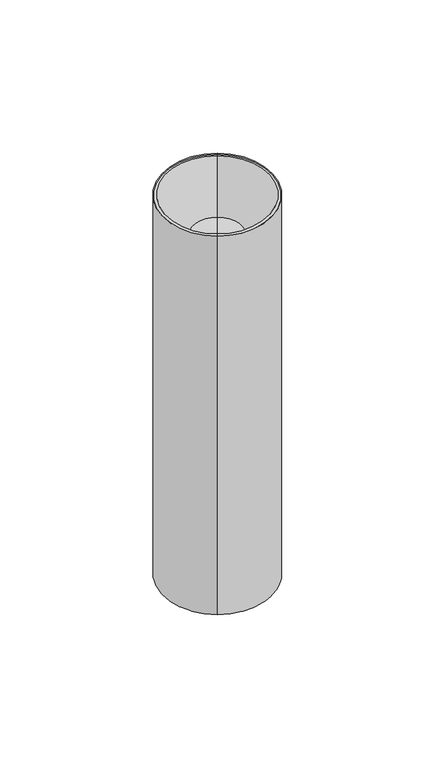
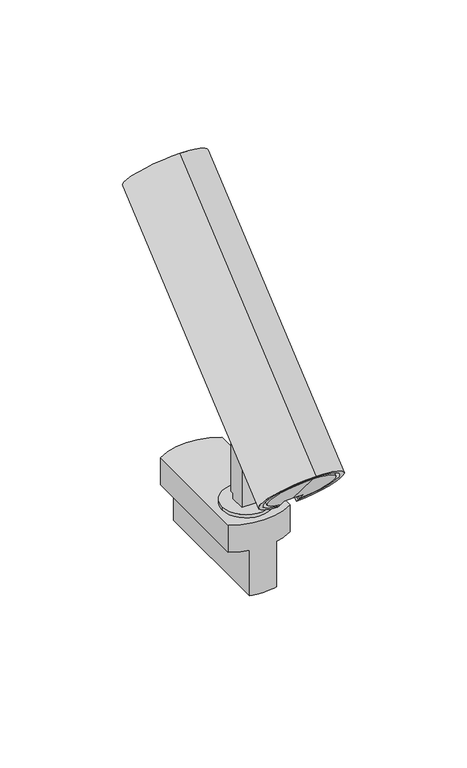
"""IFC4 building model written with IfcOpenShell, lengths in millimetres: light fixture geometry, PIPES T XS : 490lm 7,8W 930 38°."""

from ifc_helpers import new_model, si_unit, point, frame, frame_2d, origin, origin_2d, place, context, project, spatial, polyline, circle_curve, trimmed, segment, composite_curve, outline, extrude, source, transform, mapped, element, save
from ifc_brep_helpers import plane_surface, cylinder_surface, revolved_surface, advanced_brep


def light_fixture_695a9ad5(model_context):
    return source(origin(), model_context, "Body", "SolidModel", [
        extrude(outline(composite_curve([segment(polyline([(-5.0, 16.8), (-5.0, 64.7126299)]), True, "CONTINUOUS"), segment(trimmed(circle_curve(frame_2d((-2.7611322, 74.2485419)), 9.7952104), [point((-5.0, 64.7126299))], [point((-8.626948, 66.4039036))], False, "CARTESIAN"), True, "CONTINUOUS"), segment(polyline([(-8.626948, 66.4039036), (-8.626948, 72.2216603)]), True, "CONTINUOUS"), segment(trimmed(circle_curve(frame_2d((-3.0, 72.2216603)), 5.626948), [point((-8.626948, 72.2216603))], [point((-3.0, 77.8486083))], False, "CARTESIAN"), True, "CONTINUOUS"), segment(polyline([(-3.0, 77.8486083), (5.0, 77.8486083), (5.0, 19.8), (3.0, 19.8), (3.0, 16.8), (-5.0, 16.8)]), True, "CONTINUOUS")], self_intersect=False)), frame((-5.0, 0.0, 0.0), z_axis=(1.0, 0.0, 0.0), x_axis=(0.0, 1.0, 0.0)), (0.0, 0.0, 1.0), 10.0),
        extrude(outline(composite_curve([segment(trimmed(circle_curve(origin_2d(), 12.5), [point((-12.5, 0.0))], [point((12.5, 0.0))], False, "CARTESIAN"), True, "CONTINUOUS"), segment(trimmed(circle_curve(origin_2d(), 12.5), [point((12.5, 0.0))], [point((-12.5, 0.0))], False, "CARTESIAN"), True, "CONTINUOUS")], self_intersect=False)), frame((0.0, 0.0, 15.0), z_axis=(0.0, 0.0, 1.0), x_axis=(1.0, 0.0, 0.0)), (0.0, 0.0, 1.0), 1.8),
        advanced_brep(
        [(-7.1153658, -15.2862846, -25.0), (-7.1153658, 53.3498174, -25.0), (7.1153658, 53.3498174, -25.0), (7.1153658, -15.2862846, -25.0), (-16.1153658, 49.7317664, 15.0), (-16.1153658, -11.6682336, 15.0), (16.1153658, -11.6682336, 15.0), (16.1153658, 49.7317664, 15.0), (-16.1153658, 49.7317664, 0.0), (-16.1153658, -11.6682336, 0.0), (-7.1153658, -15.2862846, 0.0), (7.1153658, -15.2862846, 0.0), (16.1153658, -11.6682336, 0.0), (16.1153658, 49.7317664, 0.0), (7.1153658, 53.3498174, 0.0), (-7.1153658, 53.3498174, 0.0)],
        [
            (0, 1),
            (1, 2, circle_curve(frame((0.0, 22.6472542, -25.0), z_axis=(0.0, 0.0, -1.0), x_axis=(1.0, 0.0, 0.0)), 31.5162786)),
            (2, 3),
            (3, 0, circle_curve(frame((0.0, 15.4162786, -25.0), z_axis=(0.0, 0.0, -1.0), x_axis=(1.0, 0.0, 0.0)), 31.5162786)),
            (4, 5),
            (5, 6, circle_curve(frame((0.0, 15.4162786, 15.0), z_axis=(0.0, 0.0, 1.0), x_axis=(1.0, 0.0, 0.0)), 31.5162786)),
            (6, 7),
            (7, 4, circle_curve(frame((0.0, 22.6472542, 15.0), z_axis=(0.0, 0.0, 1.0), x_axis=(1.0, 0.0, 0.0)), 31.5162786)),
            (4, 8),
            (8, 9),
            (9, 5),
            (9, 10, circle_curve(frame((0.0, 15.4162786, 0.0), z_axis=(0.0, 0.0, 1.0), x_axis=(1.0, 0.0, 0.0)), 31.5162786)),
            (10, 0),
            (3, 11),
            (11, 12, circle_curve(frame((0.0, 15.4162786, 0.0), z_axis=(0.0, 0.0, 1.0), x_axis=(1.0, 0.0, 0.0)), 31.5162786)),
            (12, 6),
            (12, 13),
            (13, 7),
            (13, 14, circle_curve(frame((0.0, 22.6472542, 0.0), z_axis=(0.0, 0.0, 1.0), x_axis=(1.0, 0.0, 0.0)), 31.5162786)),
            (14, 2),
            (1, 15),
            (15, 8, circle_curve(frame((0.0, 22.6472542, 0.0), z_axis=(0.0, 0.0, 1.0), x_axis=(1.0, 0.0, 0.0)), 31.5162786)),
            (15, 10),
            (11, 14),
        ],
        [
            plane_surface(frame((-16.1153658, -11.6883244, -25.0), z_axis=(0.0, 0.0, -1.0), x_axis=(0.0, 1.0, 0.0))),
            plane_surface(frame((-16.1153658, -11.6883244, 15.0), z_axis=(0.0, 0.0, 1.0), x_axis=(0.0, -1.0, 0.0))),
            plane_surface(frame((-16.1153658, 49.7317664, 15.0), z_axis=(-1.0, 0.0, 0.0), x_axis=(0.0, 0.0, -1.0))),
            cylinder_surface(frame((0.0, 15.4162786, -25.0), z_axis=(0.0, 0.0, 1.0), x_axis=(1.0, 0.0, 0.0)), 31.5162786),
            plane_surface(frame((16.1153658, -11.6682336, 15.0), z_axis=(1.0, 0.0, 0.0), x_axis=(0.0, 0.0, -1.0))),
            cylinder_surface(frame((0.0, 22.6472542, -25.0), z_axis=(0.0, 0.0, 1.0), x_axis=(1.0, 0.0, 0.0)), 31.5162786),
            plane_surface(frame((-7.1153658, 58.6979838, 0.0), z_axis=(0.0, 0.0, -1.0), x_axis=(-1.0, 0.0, 0.0))),
            plane_surface(frame((-7.1153658, -21.3020162, 0.0), z_axis=(-1.0, 0.0, 0.0), x_axis=(0.0, 0.0, -1.0))),
            plane_surface(frame((7.1153658, -11.6883244, 0.0), z_axis=(0.0, 0.0, -1.0), x_axis=(0.0, -1.0, 0.0))),
            plane_surface(frame((7.1153658, 58.6979838, 0.0), z_axis=(1.0, 0.0, 0.0), x_axis=(0.0, 0.0, -1.0))),
        ],
        [
            (0, [[1, 2, 3, 4]]),
            (1, [[5, 6, 7, 8]]),
            (2, [[-5, 9, 10, 11]]),
            (3, [[-6, -11, 12, 13, -4, 14, 15, 16]]),
            (4, [[-7, -16, 17, 18]]),
            (5, [[-8, -18, 19, 20, -2, 21, 22, -9]]),
            (6, [[23, -12, -10, -22]]),
            (7, [[-23, -21, -1, -13]]),
            (8, [[24, -19, -17, -15]]),
            (9, [[-24, -14, -3, -20]]),
        ],
    ),
        advanced_brep(
        [(-5.0, 0.6162842, 80.0441603), (-5.0, -38.4519824, 47.2619922), (-5.0, -33.7401546, 41.6466545), (-5.0, -38.3364213, 37.7899288), (-5.0, -37.0085665, 36.2074531), (-5.0, 6.6559667, 72.8463469), (5.0, 0.6162842, 80.0441603), (5.0, 6.6559667, 72.8463469), (5.0, -37.0085665, 36.2074531), (5.0, -38.3364213, 37.7899288), (5.0, -33.7401546, 41.6466545), (5.0, -38.4519824, 47.2619922), (0.0, -38.4519824, 47.2619922), (0.0, 7.0441603, 72.3837158), (0.0, 86.7127823, 139.2336272), (0.0, 59.7157027, 171.4074939), (0.0, -63.6174526, 67.9186887), (0.0, -62.3318774, 66.3865998), (0.0, -57.7356107, 70.2433255), (0.0, -45.5226461, 55.688481), (0.0, 52.6145443, 151.0894342), (0.0, 65.4702964, 135.7685453), (0.0, 59.0424203, 143.4289898)],
        [
            (0, 1),
            (1, 2),
            (2, 3),
            (3, 4),
            (4, 5),
            (5, 0),
            (6, 7),
            (7, 8),
            (8, 9),
            (9, 10),
            (10, 11),
            (11, 6),
            (0, 6),
            (11, 12),
            (12, 1),
            (5, 13, circle_curve(frame((0.0, -6.4543795, 88.4706491), z_axis=(0.0, -0.7660444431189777, -0.6427876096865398), x_axis=(0.0, 0.6427876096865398, -0.7660444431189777)), 21.0)),
            (13, 7, circle_curve(frame((0.0, -6.4543795, 88.4706491), z_axis=(0.0, -0.7660444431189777, -0.6427876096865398), x_axis=(0.0, 0.6427876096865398, -0.7660444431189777)), 21.0)),
            (14, 15, circle_curve(frame((0.0, 73.2142425, 155.3205605), z_axis=(0.0, -0.7660444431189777, -0.6427876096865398), x_axis=(0.0, 0.6427876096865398, -0.7660444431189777)), 21.0)),
            (15, 16),
            (16, 8, circle_curve(frame((0.0, -50.1189128, 51.8317554), z_axis=(0.0, 0.7660444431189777, 0.6427876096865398), x_axis=(0.0, 0.6427876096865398, -0.7660444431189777)), 21.0)),
            (13, 14),
            (15, 14, circle_curve(frame((0.0, 73.2142425, 155.3205605), z_axis=(0.0, -0.7660444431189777, -0.6427876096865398), x_axis=(0.0, 0.6427876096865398, -0.7660444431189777)), 21.0)),
            (4, 16, circle_curve(frame((0.0, -50.1189128, 51.8317554), z_axis=(0.0, 0.7660444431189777, 0.6427876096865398), x_axis=(0.0, 0.6427876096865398, -0.7660444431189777)), 21.0)),
            (16, 17),
            (17, 9, circle_curve(frame((0.0, -50.1189128, 51.8317554), z_axis=(0.0, 0.7660444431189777, 0.6427876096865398), x_axis=(0.0, 0.6427876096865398, -0.7660444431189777)), 19.0)),
            (3, 17, circle_curve(frame((0.0, -50.1189128, 51.8317554), z_axis=(0.0, 0.7660444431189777, 0.6427876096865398), x_axis=(0.0, 0.6427876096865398, -0.7660444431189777)), 19.0)),
            (17, 18),
            (18, 10, circle_curve(frame((0.0, -45.5226461, 55.688481), z_axis=(0.0, 0.7660444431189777, 0.6427876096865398), x_axis=(0.0, 0.6427876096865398, -0.7660444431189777)), 19.0)),
            (2, 18, circle_curve(frame((0.0, -45.5226461, 55.688481), z_axis=(0.0, 0.7660444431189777, 0.6427876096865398), x_axis=(0.0, 0.6427876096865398, -0.7660444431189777)), 19.0)),
            (18, 19),
            (19, 12),
            (20, 21, circle_curve(frame((0.0, 59.0424203, 143.4289898), z_axis=(0.0, 0.7660444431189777, 0.6427876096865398), x_axis=(0.0, 0.6427876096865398, -0.7660444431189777)), 10.0)),
            (21, 22),
            (22, 20),
            (21, 20, circle_curve(frame((0.0, 59.0424203, 143.4289898), z_axis=(0.0, 0.7660444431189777, 0.6427876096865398), x_axis=(0.0, 0.6427876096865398, -0.7660444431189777)), 10.0)),
            (14, 21),
            (20, 15),
        ],
        [
            plane_surface(frame((-5.0, 0.6162842, 80.0441603), z_axis=(1.0, 0.0, 0.0), x_axis=(0.0, 0.7660444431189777, 0.6427876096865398))),
            plane_surface(frame((5.0, 0.6162842, 80.0441603), z_axis=(-1.0, 0.0, 0.0), x_axis=(0.0, -0.7660444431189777, -0.6427876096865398))),
            plane_surface(frame((5.0, 0.6162842, 80.0441603), z_axis=(0.0, 0.6427876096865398, -0.7660444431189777), x_axis=(-1.0, 0.0, 0.0))),
            plane_surface(frame((5.0, 13.4720364, 64.7232714), z_axis=(0.0, -0.7660444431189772, -0.6427876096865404), x_axis=(-1.0, 0.0, 0.0))),
            cylinder_surface(frame((0.0, -56.5938123, 46.3986696), z_axis=(0.0, -0.7660444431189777, -0.6427876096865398), x_axis=(0.0, 0.6427876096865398, -0.7660444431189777)), 21.0),
            plane_surface(frame((0.0, -50.1189128, 51.8317554), z_axis=(0.0, -0.7660444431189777, -0.6427876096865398), x_axis=(0.0, 0.6427876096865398, -0.7660444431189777))),
            revolved_surface(polyline([(0.0, -37.90594822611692, 37.27691095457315), (0.0, -33.30968151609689, 41.133636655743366)]), (0.0, -56.5938123, 46.3986696), (0.0, -0.7660444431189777, -0.6427876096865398)),
            plane_surface(frame((0.0, -45.5226461, 55.688481), z_axis=(0.0, -0.7660444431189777, -0.6427876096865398), x_axis=(0.0, 0.6427876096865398, -0.7660444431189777))),
            plane_surface(frame((0.0, 59.0424203, 143.4289898), z_axis=(0.0, 0.7660444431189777, 0.6427876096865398), x_axis=(0.0, 0.6427876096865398, -0.7660444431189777))),
            revolved_surface(polyline([(0.0, 65.4702964, 135.7685453), (0.0, 86.7127823, 139.2336272)]), (0.0, -56.5938123, 46.3986696), (0.0, -0.7660444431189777, -0.6427876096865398)),
        ],
        [
            (0, [[1, 2, 3, 4, 5, 6]]),
            (1, [[7, 8, 9, 10, 11, 12]]),
            (2, [[13, -12, 14, 15, -1]]),
            (3, [[-13, -6, 16, 17, -7]]),
            (4, [[18, 19, 20, -8, -17, 21]]),
            (4, [[-19, 22, -21, -16, -5, 23]]),
            (5, [[24, 25, -9, -20]]),
            (5, [[-24, -23, -4, 26]]),
            (6, [[27, 28, -10, -25]]),
            (6, [[-27, -26, -3, 29]]),
            (7, [[30, 31, -14, -11, -28]]),
            (7, [[-30, -29, -2, -15, -31]]),
            (8, [[32, 33, 34]]),
            (8, [[-33, 35, -34]]),
            (9, [[-18, 36, -32, 37]]),
            (9, [[-22, -37, -35, -36]]),
        ],
    ),
        advanced_brep(
        [(-5.0, -41.5161602, 44.6908417), (-5.0, -43.0482491, 43.4052665), (-5.0, -39.6791255, 39.3901013), (-5.0, -38.1470366, 40.6756765), (5.0, -43.0482491, 43.4052665), (5.0, -41.5161602, 44.6908417), (5.0, -38.1470366, 40.6756765), (5.0, -39.6791255, 39.3901013), (0.0, -41.5161602, 44.6908417), (0.0, -43.0482491, 43.4052665), (0.0, -48.5868239, 53.1173306), (0.0, -59.5101273, 66.1352167), (0.0, -61.0422162, 64.8496415), (0.0, -50.1189128, 51.8317554)],
        [
            (0, 1),
            (1, 2),
            (2, 3),
            (3, 0),
            (4, 5),
            (5, 6),
            (6, 7),
            (7, 4),
            (0, 8),
            (8, 5),
            (4, 9),
            (9, 1),
            (10, 11),
            (11, 6, circle_curve(frame((0.0, -48.5868239, 53.1173306), z_axis=(0.0, 0.7660444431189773, 0.6427876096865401), x_axis=(0.0, 0.6427876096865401, -0.7660444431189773)), 16.9936434)),
            (8, 10),
            (3, 11, circle_curve(frame((0.0, -48.5868239, 53.1173306), z_axis=(0.0, 0.7660444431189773, 0.6427876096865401), x_axis=(0.0, 0.6427876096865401, -0.7660444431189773)), 16.9936434)),
            (11, 12),
            (12, 7, circle_curve(frame((0.0, -50.1189128, 51.8317554), z_axis=(0.0, 0.7660444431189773, 0.6427876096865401), x_axis=(0.0, 0.6427876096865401, -0.7660444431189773)), 16.9936434)),
            (2, 12, circle_curve(frame((0.0, -50.1189128, 51.8317554), z_axis=(0.0, 0.7660444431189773, 0.6427876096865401), x_axis=(0.0, 0.6427876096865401, -0.7660444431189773)), 16.9936434)),
            (12, 13),
            (13, 9),
        ],
        [
            plane_surface(frame((-5.0, 0.6162842, 80.0441603), z_axis=(1.0, 0.0, 0.0), x_axis=(0.0, 0.7660444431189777, 0.6427876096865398))),
            plane_surface(frame((5.0, 0.6162842, 80.0441603), z_axis=(-1.0, 0.0, 0.0), x_axis=(0.0, -0.7660444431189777, -0.6427876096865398))),
            plane_surface(frame((5.0, 0.6162842, 80.0441603), z_axis=(0.0, 0.6427876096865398, -0.7660444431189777), x_axis=(-1.0, 0.0, 0.0))),
            plane_surface(frame((0.0, -48.5868239, 53.1173306), z_axis=(0.0, 0.7660444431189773, 0.6427876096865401), x_axis=(0.0, 0.6427876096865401, -0.7660444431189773))),
            cylinder_surface(frame((0.0, 51.035432, 136.7103288), z_axis=(0.0, -0.7660444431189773, -0.6427876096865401), x_axis=(0.0, 0.6427876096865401, -0.7660444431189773)), 16.9936434),
            plane_surface(frame((0.0, -50.1189128, 51.8317554), z_axis=(0.0, -0.7660444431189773, -0.6427876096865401), x_axis=(0.0, 0.6427876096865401, -0.7660444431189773))),
        ],
        [
            (0, [[1, 2, 3, 4]]),
            (1, [[5, 6, 7, 8]]),
            (2, [[-1, 9, 10, -5, 11, 12]]),
            (3, [[13, 14, -6, -10, 15]]),
            (3, [[-13, -15, -9, -4, 16]]),
            (4, [[17, 18, -7, -14]]),
            (4, [[-17, -16, -3, 19]]),
            (5, [[20, 21, -11, -8, -18]]),
            (5, [[-20, -19, -2, -12, -21]]),
        ],
    ),
        advanced_brep(
        [(0.0, 53.7462217, 151.2964774), (0.0, 65.8707079, 136.8470774), (0.0, 59.8084648, 144.0717774), (0.0, 60.4635338, 170.5162635), (0.0, 85.9649513, 140.1248576), (0.0, 59.7157027, 171.4074939), (0.0, 86.7127823, 139.2336272), (0.0, 52.6145443, 151.0894342), (0.0, 65.4702964, 135.7685453), (0.0, 59.0424203, 143.4289898)],
        [
            (0, 1, circle_curve(frame((0.0, 59.8084648, 144.0717774), z_axis=(0.0, 0.7660444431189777, 0.6427876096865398), x_axis=(0.0, 0.6427876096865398, -0.7660444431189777)), 9.431176)),
            (1, 2),
            (2, 0),
            (1, 0, circle_curve(frame((0.0, 59.8084648, 144.0717774), z_axis=(0.0, 0.7660444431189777, 0.6427876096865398), x_axis=(0.0, 0.6427876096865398, -0.7660444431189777)), 9.431176)),
            (3, 4, circle_curve(frame((0.0, 73.2142425, 155.3205605), z_axis=(0.0, 0.7660444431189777, 0.6427876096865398), x_axis=(0.0, 0.6427876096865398, -0.7660444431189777)), 19.8365814)),
            (4, 1),
            (0, 3),
            (4, 3, circle_curve(frame((0.0, 73.2142425, 155.3205605), z_axis=(0.0, 0.7660444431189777, 0.6427876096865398), x_axis=(0.0, 0.6427876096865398, -0.7660444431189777)), 19.8365814)),
            (5, 6, circle_curve(frame((0.0, 73.2142425, 155.3205605), z_axis=(0.0, 0.7660444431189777, 0.6427876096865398), x_axis=(0.0, 0.6427876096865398, -0.7660444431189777)), 21.0)),
            (6, 4),
            (3, 5),
            (6, 5, circle_curve(frame((0.0, 73.2142425, 155.3205605), z_axis=(0.0, 0.7660444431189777, 0.6427876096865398), x_axis=(0.0, 0.6427876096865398, -0.7660444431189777)), 21.0)),
            (7, 8, circle_curve(frame((0.0, 59.0424203, 143.4289898), z_axis=(0.0, 0.7660444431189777, 0.6427876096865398), x_axis=(0.0, 0.6427876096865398, -0.7660444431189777)), 10.0)),
            (8, 6),
            (5, 7),
            (8, 7, circle_curve(frame((0.0, 59.0424203, 143.4289898), z_axis=(0.0, 0.7660444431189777, 0.6427876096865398), x_axis=(0.0, 0.6427876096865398, -0.7660444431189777)), 10.0)),
            (9, 8),
            (7, 9),
        ],
        [
            plane_surface(frame((0.0, 59.8084648, 144.0717774), z_axis=(0.0, 0.7660444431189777, 0.6427876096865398), x_axis=(0.0, 0.6427876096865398, -0.7660444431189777))),
            revolved_surface(polyline([(0.0, 65.8707079, 136.8470774), (0.0, 85.9649513, 140.1248576)]), (0.0, -71.9147011, 33.5429174), (0.0, -0.7660444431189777, -0.6427876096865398)),
            plane_surface(frame((0.0, 73.2142425, 155.3205605), z_axis=(0.0, 0.7660444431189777, 0.6427876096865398), x_axis=(0.0, 0.6427876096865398, -0.7660444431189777))),
            revolved_surface(polyline([(0.0, 86.7127823, 139.2336272), (0.0, 65.4702964, 135.7685453)]), (0.0, -71.9147011, 33.5429174), (0.0, -0.7660444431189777, -0.6427876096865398)),
            plane_surface(frame((0.0, 59.0424203, 143.4289898), z_axis=(0.0, -0.7660444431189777, -0.6427876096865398), x_axis=(0.0, 0.6427876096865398, -0.7660444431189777))),
        ],
        [
            (0, [[1, 2, 3]]),
            (0, [[4, -3, -2]]),
            (1, [[5, 6, -1, 7]]),
            (1, [[8, -7, -4, -6]]),
            (2, [[9, 10, -5, 11]]),
            (2, [[12, -11, -8, -10]]),
            (3, [[13, 14, -9, 15]]),
            (3, [[16, -15, -12, -14]]),
            (4, [[17, -13, 18]]),
            (4, [[-18, -16, -17]]),
        ],
    ),
    ])


if __name__ == "__main__":
    model = new_model("IFC4")
    model_context = context("Model", 3, world=origin())
    ifc_project = project(units=[si_unit("LENGTHUNIT", "METRE", prefix="MILLI")], contexts=[model_context])
    site = spatial("IfcSite", under=ifc_project)
    building = spatial("IfcBuilding", under=site)
    placement = place(None, origin())
    light_fixture_shape = light_fixture_695a9ad5(model_context)
    element("IfcLightFixture", 1, ObjectType="PIPES T XS : 490lm 7,8W 930 38°", at=placement, inside=building, context=model_context, shape_type="MappedRepresentation", body=[
        mapped(light_fixture_shape, transform((0.0, 0.0, 0.0), x_axis=(1.0, 0.0, 0.0), y_axis=(0.0, 1.0, 0.0), z_axis=(0.0, 0.0, 1.0))),
    ])
    save(model, "model.ifc")
